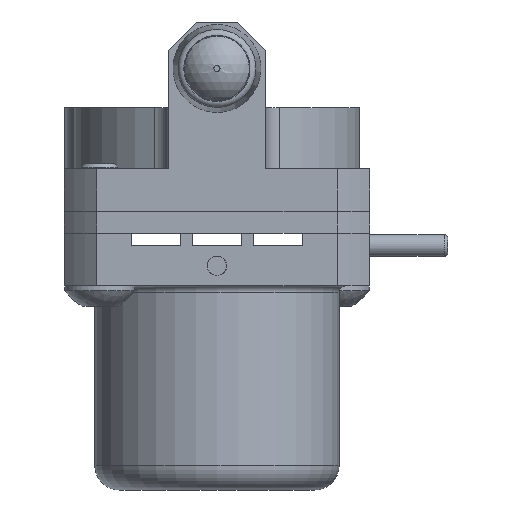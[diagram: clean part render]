
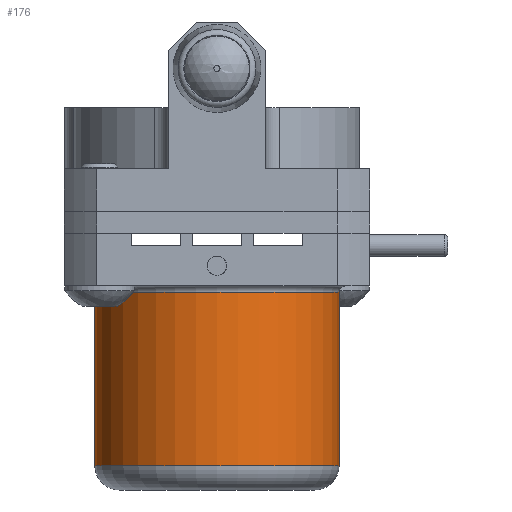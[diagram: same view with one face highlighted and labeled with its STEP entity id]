
A CAD part, front view. The second image highlights one B-rep face of the part: STEP entity #176.
In plain terms, the highlighted cylindrical face has radius 10 mm (diameter 20 mm), a full revolution.
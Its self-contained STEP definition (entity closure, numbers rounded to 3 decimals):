
#96 = CYLINDRICAL_SURFACE ( 'NONE', #5134, 10. ) ;
#176 = ADVANCED_FACE ( 'NONE', ( #454, #4376 ), #96, .T. ) ;
#454 = FACE_OUTER_BOUND ( 'NONE', #2695, .T. ) ;
#715 = CIRCLE ( 'NONE', #2528, 10. ) ;
#752 = DIRECTION ( 'NONE',  ( 1., 0., 0. ) ) ;
#773 = DIRECTION ( 'NONE',  ( 0., 0., -1. ) ) ;
#1652 = DIRECTION ( 'NONE',  ( 0., 0., 1. ) ) ;
#1797 = EDGE_LOOP ( 'NONE', ( #5747 ) ) ;
#1971 = DIRECTION ( 'NONE',  ( 0., 0., 1. ) ) ;
#2254 = CARTESIAN_POINT ( 'NONE',  ( 10., 0., -0.5 ) ) ;
#2320 = AXIS2_PLACEMENT_3D ( 'NONE', #3976, #773, #5818 ) ;
#2424 = DIRECTION ( 'NONE',  ( -1., 0., 0. ) ) ;
#2528 = AXIS2_PLACEMENT_3D ( 'NONE', #3903, #1971, #2424 ) ;
#2695 = EDGE_LOOP ( 'NONE', ( #5575 ) ) ;
#2969 = EDGE_CURVE ( 'NONE', #4680, #4680, #715, .T. ) ;
#3085 = EDGE_CURVE ( 'NONE', #4532, #4532, #4047, .T. ) ;
#3903 = CARTESIAN_POINT ( 'NONE',  ( 0., 0., -14.7 ) ) ;
#3976 = CARTESIAN_POINT ( 'NONE',  ( 0., 0., -0.5 ) ) ;
#4047 = CIRCLE ( 'NONE', #2320, 10. ) ;
#4376 = FACE_OUTER_BOUND ( 'NONE', #1797, .T. ) ;
#4532 = VERTEX_POINT ( 'NONE', #2254 ) ;
#4680 = VERTEX_POINT ( 'NONE', #5402 ) ;
#5134 = AXIS2_PLACEMENT_3D ( 'NONE', #5288, #1652, #752 ) ;
#5288 = CARTESIAN_POINT ( 'NONE',  ( 0., 0., -16.7 ) ) ;
#5402 = CARTESIAN_POINT ( 'NONE',  ( -10., 0., -14.7 ) ) ;
#5575 = ORIENTED_EDGE ( 'NONE', *, *, #3085, .T. ) ;
#5747 = ORIENTED_EDGE ( 'NONE', *, *, #2969, .T. ) ;
#5818 = DIRECTION ( 'NONE',  ( 1., 0., 0. ) ) ;
